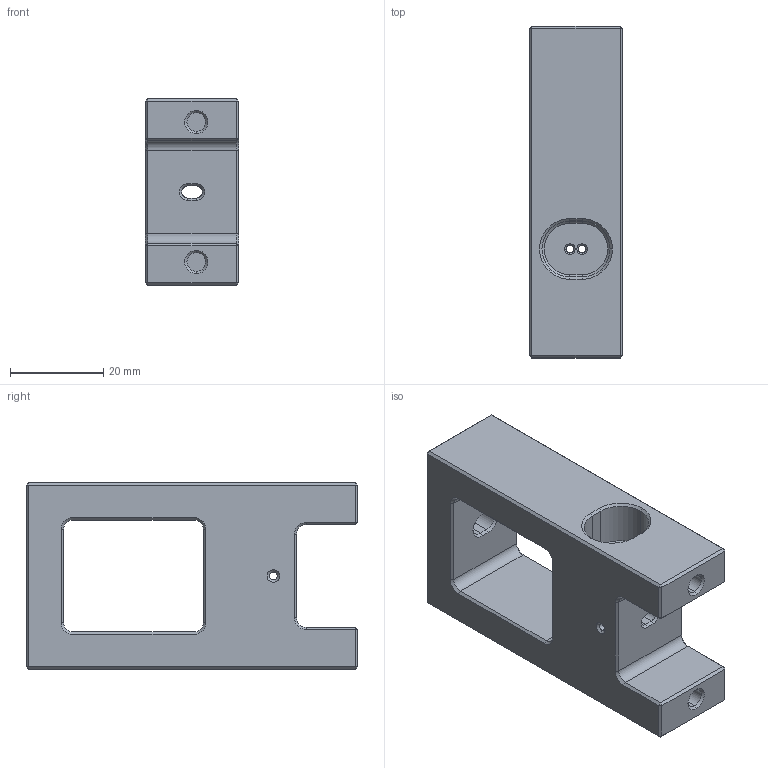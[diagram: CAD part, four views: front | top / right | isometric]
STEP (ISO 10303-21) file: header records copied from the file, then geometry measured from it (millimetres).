
FILE_DESCRIPTION (( 'STEP AP214' ), '1' );
FILE_NAME ('TRL-0053-A.STEP', '2021-06-28T15:51:00', ( '' ), ( '' ), 'SwSTEP 2.0', 'SolidWorks 2016', '' );
FILE_SCHEMA (( 'AUTOMOTIVE_DESIGN' ));
Length unit declared in the file: millimetre
Products named in the file (1): TRL-0053-A
Bounding box: 20 x 71.1 x 40 mm (x, y, z)
Volume: 33136.7 mm3; surface area: 11961.9 mm2
Topology: 1 solids, 1 shells, 180 faces, 410 edges, 232 vertices
Faces by surface type: plane 86, cone 48, cylinder 32, bspline 8, torus 6
Entity records: 7712 total; most frequent: CARTESIAN_POINT 3645, DIRECTION 852, ORIENTED_EDGE 820, EDGE_CURVE 410, AXIS2_PLACEMENT_3D 299, VECTOR 254, LINE 254, VERTEX_POINT 232
